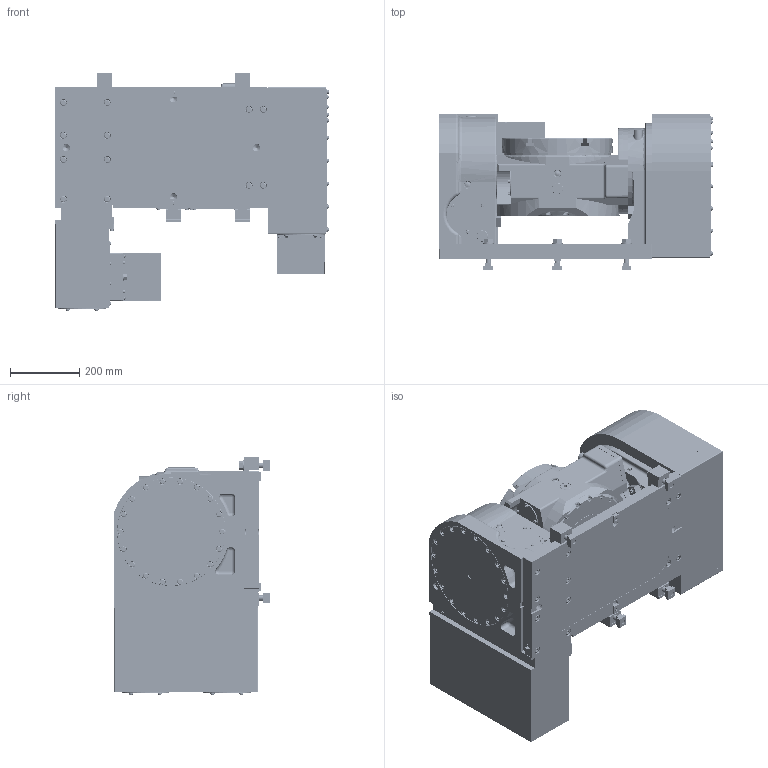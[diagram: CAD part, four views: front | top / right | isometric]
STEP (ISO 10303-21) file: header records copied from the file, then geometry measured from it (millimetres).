
FILE_DESCRIPTION (( 'STEP AP214' ), '1' );
FILE_NAME ('【掲載用】TT321付加軸.STEP', '2019-10-10T07:21:45', ( '' ), ( '' ), 'SwSTEP 2.0', 'SolidWorks 2017', '' );
FILE_SCHEMA (( 'AUTOMOTIVE_DESIGN' ));
Length unit declared in the file: millimetre
Products named in the file (22): モータケース(61E2739561)TT321HFF15_旧61E260716; モータケース(61E2607190)TT321HFF12; パッキングプレートPAD(61E4421681)TT321H00_回転モデル; ササエPAD(61E3566146)TT321H00_回転モデル; ケイシャモータクドウASSY(61E3566137)TT321H00_回転モデル; CLAMPING PARTS(61E4303000)TR320D; Tスロットナット１８１６; ケイシャホンタイASSY(61E2794681)TT321H00_回転モデル; B パーカ　M16×75; ワッシャ　１６; 【掲載用】TT321付加軸; クランプ（61E4043064）; TABLE(61E8462220)TRX320H00; BODY(61E1128001)TT321H00; BASE_TT321HFF; キタガワシール; KQ2E06-01; 僇僶乕丂俹(61E4458433)MR250RAM01; コネクタカバー（61E3639910）; コネクタプレート（61E4465853）TB200A4F24; コネクタプレート（61E4471133）MR200LAF04; スペーサ（61E4617440）MR200LAF43_穴無し
Assembly tree (27 placements, depth 3):
  【掲載用】TT321付加軸
    BASE_TT321HFF
      ケイシャホンタイASSY(61E2794681)TT321H00_回転モデル
      ケイシャモータクドウASSY(61E3566137)TT321H00_回転モデル
      ササエPAD(61E3566146)TT321H00_回転モデル
      パッキングプレートPAD(61E4421681)TT321H00_回転モデル
      モータケース(61E2607190)TT321HFF12
      モータケース(61E2739561)TT321HFF15_旧61E260716
      スペーサ（61E4617440）MR200LAF43_穴無し
      コネクタプレート（61E4471133）MR200LAF04
      コネクタプレート（61E4465853）TB200A4F24
      コネクタカバー（61E3639910）  x2
      僇僶乕丂俹(61E4458433)MR250RAM01  x3
      KQ2E06-01
      キタガワシール
    BODY(61E1128001)TT321H00
    TABLE(61E8462220)TRX320H00
    CLAMPING PARTS(61E4303000)TR320D  x4
      クランプ（61E4043064）
      ワッシャ　１６
      B パーカ　M16×75
      Tスロットナット１８１６
Bounding box: 791.8 x 452 x 688.7 mm (x, y, z)
Volume: 105614905 mm3; surface area: 4327521.9 mm2
Topology: 34 solids, 34 shells, 5237 faces, 12919 edges, 8304 vertices
Faces by surface type: plane 3254, cylinder 1204, cone 542, torus 202, bspline 21, sphere 14
Entity records: 174976 total; most frequent: CARTESIAN_POINT 29196, DIRECTION 24915, ORIENTED_EDGE 24366, EDGE_CURVE 12183, VECTOR 8835, LINE 8835, AXIS2_PLACEMENT_3D 8040, VERTEX_POINT 7858
